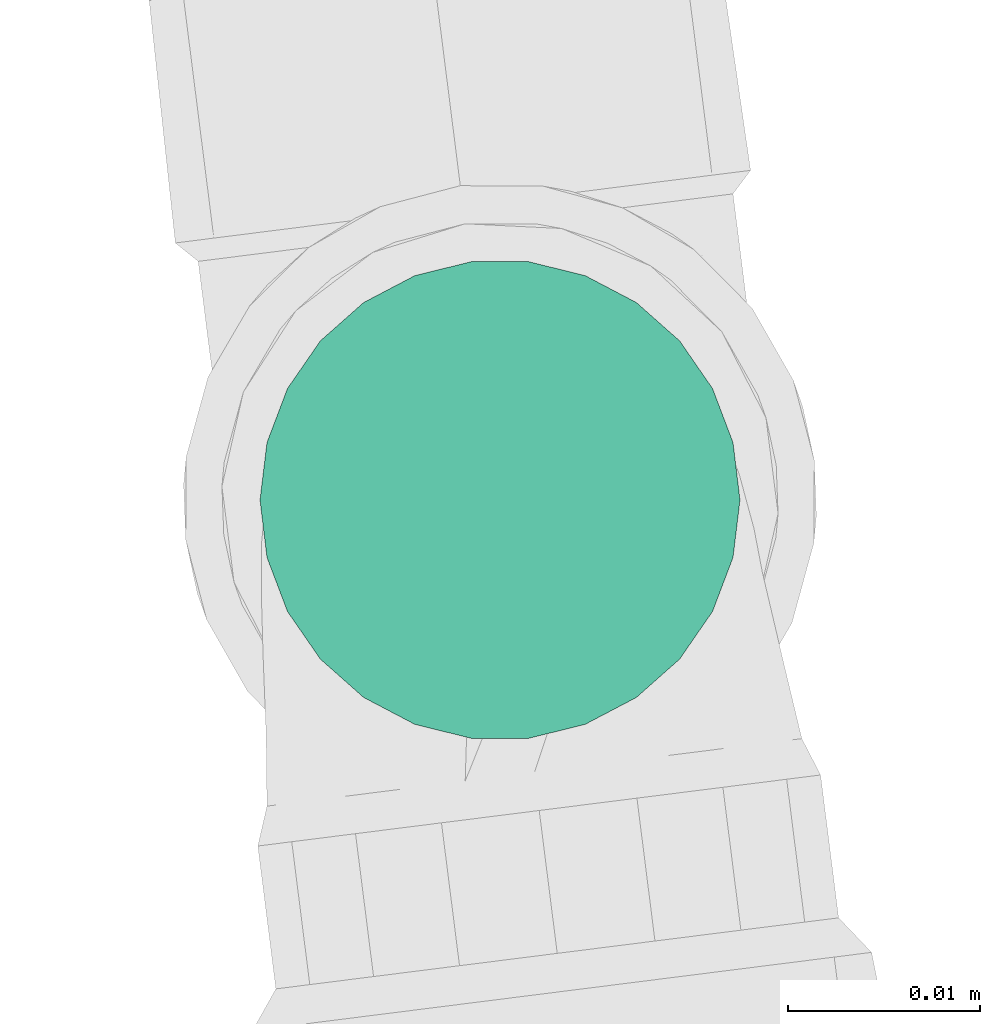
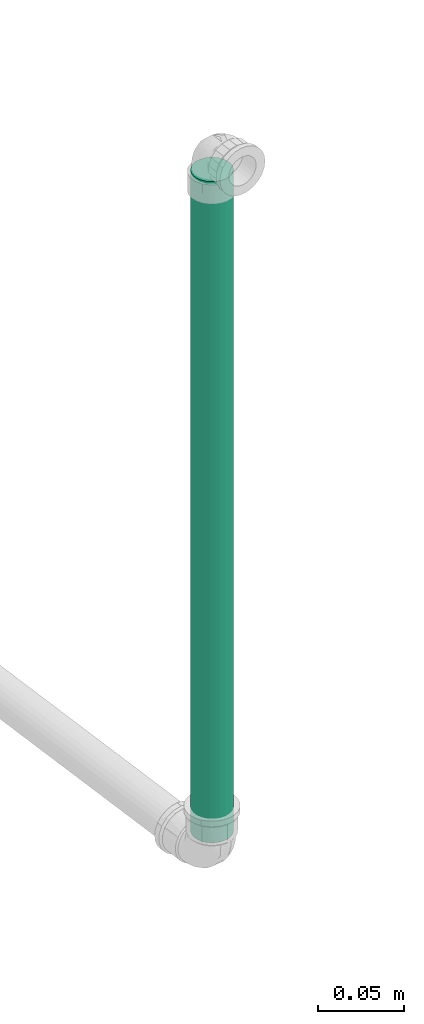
# One storey, part 31 of 97: 1 flow segment.
"""IFC2X3 building model written with IfcOpenShell, lengths in centimetres."""

from ifc_helpers import new_model, entity, si_unit, converted_unit, derived_unit, direction, frame, frame_2d, origin, place, context, subcontext, project, spatial, circle, extrude, type_object, element, save


model = new_model("IFC2X3")

# Units and contexts
model_context = context("Model", 3, precision=0.001, world=origin(), true_north=direction((6.12303176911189e-17, 1.0)))
body_context = subcontext(model_context, "Body", "Model", "MODEL_VIEW")
ifc_project = project(units=[si_unit("LENGTHUNIT", "METRE", prefix="CENTI"), si_unit("AREAUNIT", "SQUARE_METRE"), si_unit("VOLUMEUNIT", "CUBIC_METRE"), converted_unit("PLANEANGLEUNIT", "DEGREE", entity("IfcRatioMeasure", 0.0174532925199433), si_unit("PLANEANGLEUNIT", "RADIAN"), dimensions=[0, 0, 0, 0, 0, 0, 0]), si_unit("MASSUNIT", "GRAM", prefix="KILO"), derived_unit("MASSDENSITYUNIT", [(si_unit("MASSUNIT", "GRAM", prefix="KILO"), 1), (si_unit("LENGTHUNIT", "METRE"), -3)]), derived_unit("MOMENTOFINERTIAUNIT", [(si_unit("LENGTHUNIT", "METRE"), 4)]), si_unit("TIMEUNIT", "SECOND"), si_unit("FREQUENCYUNIT", "HERTZ"), si_unit("THERMODYNAMICTEMPERATUREUNIT", "DEGREE_CELSIUS"), derived_unit("THERMALTRANSMITTANCEUNIT", [(si_unit("MASSUNIT", "GRAM", prefix="KILO"), 1), (si_unit("THERMODYNAMICTEMPERATUREUNIT", "KELVIN"), -1), (si_unit("TIMEUNIT", "SECOND"), -3)]), derived_unit("VOLUMETRICFLOWRATEUNIT", [(si_unit("LENGTHUNIT", "METRE"), 3), (si_unit("TIMEUNIT", "SECOND"), -1)]), si_unit("ELECTRICCURRENTUNIT", "AMPERE"), si_unit("ELECTRICVOLTAGEUNIT", "VOLT"), si_unit("POWERUNIT", "WATT"), si_unit("FORCEUNIT", "NEWTON", prefix="KILO"), si_unit("ILLUMINANCEUNIT", "LUX"), si_unit("LUMINOUSFLUXUNIT", "LUMEN"), si_unit("LUMINOUSINTENSITYUNIT", "CANDELA"), derived_unit("USERDEFINED", [(si_unit("MASSUNIT", "GRAM", prefix="KILO"), -1), (si_unit("LENGTHUNIT", "METRE"), -2), (si_unit("TIMEUNIT", "SECOND"), 3), (si_unit("LUMINOUSFLUXUNIT", "LUMEN"), 1)]), derived_unit("LINEARVELOCITYUNIT", [(si_unit("LENGTHUNIT", "METRE"), 1), (si_unit("TIMEUNIT", "SECOND"), -1)]), si_unit("PRESSUREUNIT", "PASCAL"), derived_unit("USERDEFINED", [(si_unit("LENGTHUNIT", "METRE"), -2), (si_unit("MASSUNIT", "GRAM", prefix="KILO"), 1), (si_unit("TIMEUNIT", "SECOND"), -2)]), derived_unit("LINEARFORCEUNIT", [(si_unit("MASSUNIT", "GRAM", prefix="KILO"), 1), (si_unit("LENGTHUNIT", "METRE"), 1), (si_unit("TIMEUNIT", "SECOND"), -2), (si_unit("LENGTHUNIT", "METRE"), -1)]), derived_unit("PLANARFORCEUNIT", [(si_unit("MASSUNIT", "GRAM", prefix="KILO"), 1), (si_unit("LENGTHUNIT", "METRE"), 1), (si_unit("TIMEUNIT", "SECOND"), -2), (si_unit("LENGTHUNIT", "METRE"), -2)])], contexts=[model_context])

# Site, building, storey
site_placement = place(None, origin())
site = spatial("IfcSite", under=ifc_project, at=site_placement, Name="Default", CompositionType="ELEMENT")
building_placement = place(site_placement, origin())
building = spatial("IfcBuilding", under=site, at=building_placement, Name="HIDROSSANITÁRIO", CompositionType="ELEMENT")
storey_placement = place(building_placement, frame((0.0, 0.0, -260.0)))
storey = spatial("IfcBuildingStorey", under=building, at=storey_placement, Name="TÉRREO-HID", CompositionType="ELEMENT", Elevation=-260.0)

# Flow segment
pipe_segment_type = type_object("IfcPipeSegmentType", Name="Tipos de tubos:Tubo Marrom - Água Fria - Soldável", PredefinedType="NOTDEFINED")
flow_segment_placement = place(storey_placement, origin())
element("IfcFlowSegment", 1, at=flow_segment_placement, inside=storey, type_object=pipe_segment_type, Name="Tipos de tubos:Tubo Marrom - Água Fria - Soldável", ObjectType="Tipos de tubos:Tubo Marrom - Água Fria - Soldável", context=body_context, shape_type="SweptSolid", body=[
    extrude(circle(Radius=1.25, at=frame_2d((0.0, -2.16573425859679e-13), x_axis=(1.0, 0.0))), frame((-256.565447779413, 1905.71802581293, -18.46), z_axis=(0.0, 0.0, 1.0), x_axis=(-1.0, 0.0, 0.0)), (0.0, 0.0, 1.0), 46.93),
])

save(model, "model.ifc")
